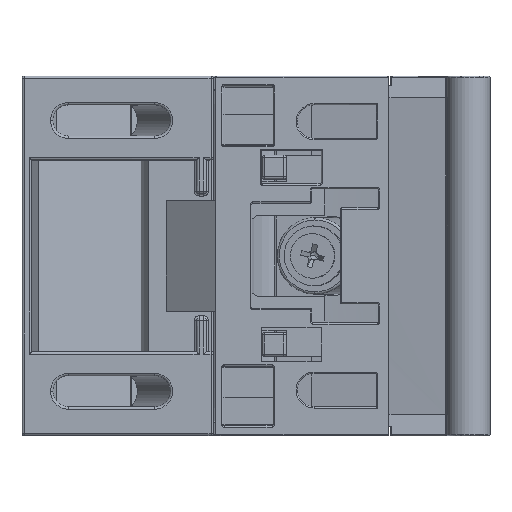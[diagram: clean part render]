
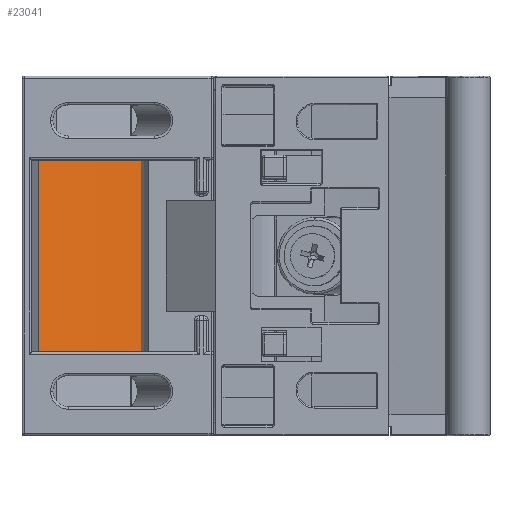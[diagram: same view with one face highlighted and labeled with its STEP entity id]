
A CAD part, top view. The second image highlights one B-rep face of the part: STEP entity #23041.
In plain terms, the highlighted free-form (B-spline) face has degree [2, 1] with [3, 2] control points.
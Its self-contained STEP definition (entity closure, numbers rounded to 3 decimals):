
#327 = CARTESIAN_POINT ( 'NONE',  ( -60.317, 17.5, -18.834 ) ) ;
#1641 = LINE ( 'NONE', #53973, #46057 ) ;
#4272 = ORIENTED_EDGE ( 'NONE', *, *, #6919, .T. ) ;
#4686 = CARTESIAN_POINT ( 'NONE',  ( -51.6, 17.5, -21.77 ) ) ;
#4947 = VERTEX_POINT ( 'NONE', #38968 ) ;
#6748 = VECTOR ( 'NONE', #46137, 1000. ) ;
#6919 = EDGE_CURVE ( 'NONE', #10840, #4947, #52811, .T. ) ;
#7298 = ORIENTED_EDGE ( 'NONE', *, *, #32033, .T. ) ;
#7647 = CARTESIAN_POINT ( 'NONE',  ( -73., 17.5, -12.971 ) ) ;
#9523 = VERTEX_POINT ( 'NONE', #48687 ) ;
#10840 = VERTEX_POINT ( 'NONE', #43024 ) ;
#11744 = CARTESIAN_POINT ( 'NONE',  ( -73., 57.5, -12.971 ) ) ;
#18164 = CARTESIAN_POINT ( 'NONE',  ( -73., 17.5, -12.971 ) ) ;
#18168 = ORIENTED_EDGE ( 'NONE', *, *, #43205, .F. ) ;
#19368 = CARTESIAN_POINT ( 'NONE',  ( -60.317, 17.5, -18.834 ) ) ;
#20305 = CARTESIAN_POINT ( 'NONE',  ( -51.6, 57.5, -21.77 ) ) ;
#23041 = ADVANCED_FACE ( 'NONE', ( #46907 ), #41514, .T. ) ;
#24408 = CARTESIAN_POINT ( 'NONE',  ( -60.317, 57.5, -18.834 ) ) ;
#24508 = CARTESIAN_POINT ( 'NONE',  ( -73., 57.5, -12.971 ) ) ;
#26016 = CARTESIAN_POINT ( 'NONE',  ( -73., 57.5, -12.971 ) ) ;
#28066 = DIRECTION ( 'NONE',  ( 0., 1., 0. ) ) ;
#29002 = CARTESIAN_POINT ( 'NONE',  ( -51.6, 17.5, -21.77 ) ) ;
#29107 = B_SPLINE_CURVE_WITH_KNOTS ( 'NONE', 2,
 ( #11744, #24408, #20305 ),
 .UNSPECIFIED., .F., .F.,
 ( 3, 3 ),
 ( 0., 1. ),
 .UNSPECIFIED. ) ;
#30351 = CARTESIAN_POINT ( 'NONE',  ( -60.317, 57.5, -18.834 ) ) ;
#32033 = EDGE_CURVE ( 'NONE', #4947, #9523, #1641, .T. ) ;
#34673 = CARTESIAN_POINT ( 'NONE',  ( -51.6, 57.5, -21.77 ) ) ;
#35485 = ORIENTED_EDGE ( 'NONE', *, *, #36751, .F. ) ;
#35740 = VERTEX_POINT ( 'NONE', #24508 ) ;
#36751 = EDGE_CURVE ( 'NONE', #35740, #9523, #29107, .T. ) ;
#37920 = EDGE_LOOP ( 'NONE', ( #18168, #4272, #7298, #35485 ) ) ;
#38968 = CARTESIAN_POINT ( 'NONE',  ( -51.6, 17.5, -21.77 ) ) ;
#39657 = LINE ( 'NONE', #7647, #6748 ) ;
#41514 = B_SPLINE_SURFACE_WITH_KNOTS ( 'NONE', 2, 1, ( 
 ( #47151, #26016 ),
 ( #327, #30351 ),
 ( #4686, #34673 ) ),
 .UNSPECIFIED., .F., .F., .F.,
 ( 3, 3 ),
 ( 2, 2 ),
 ( 0., 1. ),
 ( 0., 1. ),
 .UNSPECIFIED. ) ;
#43024 = CARTESIAN_POINT ( 'NONE',  ( -73., 17.5, -12.971 ) ) ;
#43205 = EDGE_CURVE ( 'NONE', #10840, #35740, #39657, .T. ) ;
#46057 = VECTOR ( 'NONE', #28066, 1000. ) ;
#46137 = DIRECTION ( 'NONE',  ( 0., 1., 0. ) ) ;
#46907 = FACE_OUTER_BOUND ( 'NONE', #37920, .T. ) ;
#47151 = CARTESIAN_POINT ( 'NONE',  ( -73., 17.5, -12.971 ) ) ;
#48687 = CARTESIAN_POINT ( 'NONE',  ( -51.6, 57.5, -21.77 ) ) ;
#52811 = B_SPLINE_CURVE_WITH_KNOTS ( 'NONE', 2,
 ( #18164, #19368, #29002 ),
 .UNSPECIFIED., .F., .F.,
 ( 3, 3 ),
 ( 0., 1. ),
 .UNSPECIFIED. ) ;
#53973 = CARTESIAN_POINT ( 'NONE',  ( -51.6, 17.5, -21.77 ) ) ;
